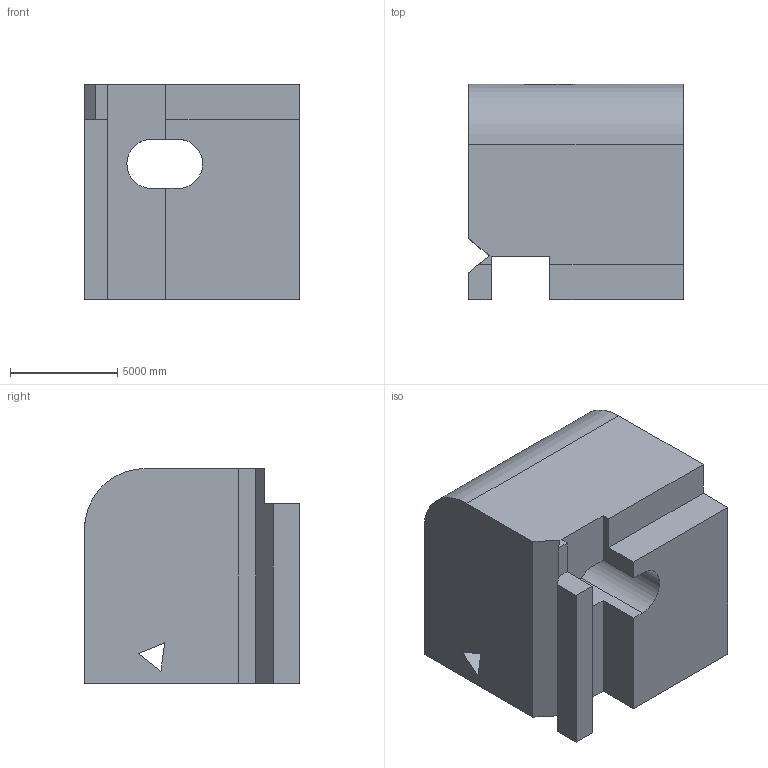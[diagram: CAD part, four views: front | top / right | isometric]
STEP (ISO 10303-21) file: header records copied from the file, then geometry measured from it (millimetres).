
FILE_DESCRIPTION (( 'STEP AP203' ), '1' );
FILE_NAME ('1555.STEP', '2022-08-18T15:46:14', ( 'user' ), ( '' ), 'SwSTEP 2.0', 'SolidWorks 2021', '' );
FILE_SCHEMA (( 'CONFIG_CONTROL_DESIGN' ));
Length unit declared in the file: centimetre
Products named in the file (1): 1555
Bounding box: 10000 x 10000 x 10000 mm (x, y, z)
Volume: 831380503545.3 mm3; surface area: 715592668.5 mm2
Topology: 1 solids, 1 shells, 26 faces, 78 edges, 52 vertices
Faces by surface type: plane 23, cylinder 3
Entity records: 995 total; most frequent: CARTESIAN_POINT 203, ORIENTED_EDGE 156, DIRECTION 136, EDGE_CURVE 78, LINE 70, VECTOR 70, VERTEX_POINT 52, AXIS2_PLACEMENT_3D 33
